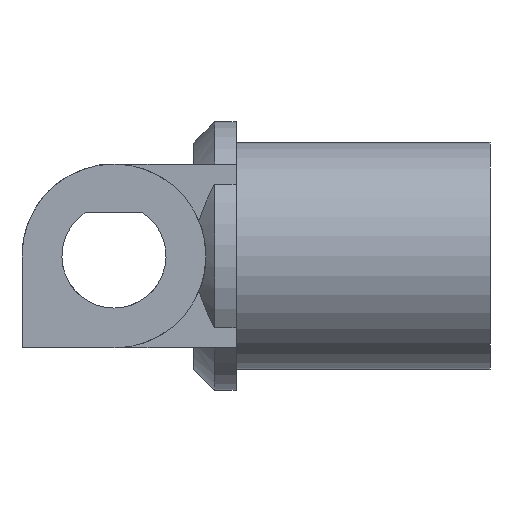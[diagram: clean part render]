
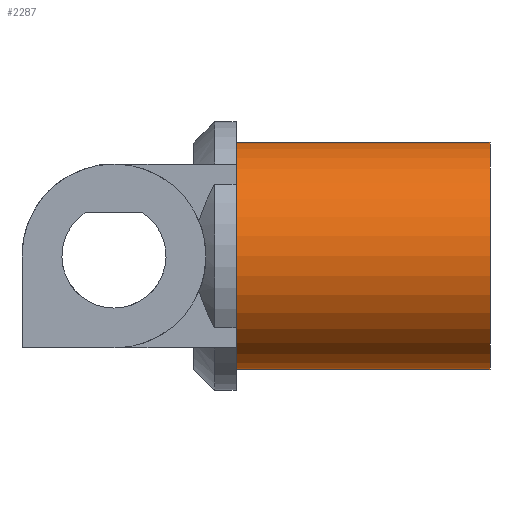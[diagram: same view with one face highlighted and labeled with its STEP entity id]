
A CAD part, front view. The second image highlights one B-rep face of the part: STEP entity #2287.
In plain terms, the highlighted cylindrical face has radius 7.9 mm (diameter 15.8 mm), a full revolution.
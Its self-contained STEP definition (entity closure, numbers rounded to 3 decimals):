
#183 = PLANE('',#184);
#184 = AXIS2_PLACEMENT_3D('',#185,#186,#187);
#185 = CARTESIAN_POINT('',(8.5,-7.9,-6.4));
#186 = DIRECTION('',(1.,0.,-0.));
#187 = DIRECTION('',(0.,0.,1.));
#859 = EDGE_CURVE('',#860,#860,#862,.T.);
#860 = VERTEX_POINT('',#861);
#861 = CARTESIAN_POINT('',(8.5,0.,-7.9));
#862 = SURFACE_CURVE('',#863,(#868,#875),.PCURVE_S1.);
#863 = CIRCLE('',#864,7.9);
#864 = AXIS2_PLACEMENT_3D('',#865,#866,#867);
#865 = CARTESIAN_POINT('',(8.5,0.,0.));
#866 = DIRECTION('',(1.,0.,0.));
#867 = DIRECTION('',(0.,0.,-1.));
#868 = PCURVE('',#183,#869);
#869 = DEFINITIONAL_REPRESENTATION('',(#870),#874);
#870 = CIRCLE('',#871,7.9);
#871 = AXIS2_PLACEMENT_2D('',#872,#873);
#872 = CARTESIAN_POINT('',(6.4,-7.9));
#873 = DIRECTION('',(-1.,0.));
#874 = ( GEOMETRIC_REPRESENTATION_CONTEXT(2) 
PARAMETRIC_REPRESENTATION_CONTEXT() REPRESENTATION_CONTEXT('2D SPACE',''
  ) );
#875 = PCURVE('',#876,#881);
#876 = CYLINDRICAL_SURFACE('',#877,7.9);
#877 = AXIS2_PLACEMENT_3D('',#878,#879,#880);
#878 = CARTESIAN_POINT('',(8.49,0.,0.));
#879 = DIRECTION('',(1.,0.,0.));
#880 = DIRECTION('',(0.,0.,-1.));
#881 = DEFINITIONAL_REPRESENTATION('',(#882),#886);
#882 = LINE('',#883,#884);
#883 = CARTESIAN_POINT('',(0.,0.01));
#884 = VECTOR('',#885,1.);
#885 = DIRECTION('',(1.,0.));
#886 = ( GEOMETRIC_REPRESENTATION_CONTEXT(2) 
PARAMETRIC_REPRESENTATION_CONTEXT() REPRESENTATION_CONTEXT('2D SPACE',''
  ) );
#2287 = ADVANCED_FACE('',(#2288),#876,.T.);
#2288 = FACE_BOUND('',#2289,.T.);
#2289 = EDGE_LOOP('',(#2290,#2313,#2340,#2341));
#2290 = ORIENTED_EDGE('',*,*,#2291,.T.);
#2291 = EDGE_CURVE('',#860,#2292,#2294,.T.);
#2292 = VERTEX_POINT('',#2293);
#2293 = CARTESIAN_POINT('',(26.17,0.,-7.9));
#2294 = SEAM_CURVE('',#2295,(#2299,#2306),.PCURVE_S1.);
#2295 = LINE('',#2296,#2297);
#2296 = CARTESIAN_POINT('',(8.49,0.,-7.9));
#2297 = VECTOR('',#2298,1.);
#2298 = DIRECTION('',(1.,0.,0.));
#2299 = PCURVE('',#876,#2300);
#2300 = DEFINITIONAL_REPRESENTATION('',(#2301),#2305);
#2301 = LINE('',#2302,#2303);
#2302 = CARTESIAN_POINT('',(6.283,-0.));
#2303 = VECTOR('',#2304,1.);
#2304 = DIRECTION('',(0.,1.));
#2305 = ( GEOMETRIC_REPRESENTATION_CONTEXT(2) 
PARAMETRIC_REPRESENTATION_CONTEXT() REPRESENTATION_CONTEXT('2D SPACE',''
  ) );
#2306 = PCURVE('',#876,#2307);
#2307 = DEFINITIONAL_REPRESENTATION('',(#2308),#2312);
#2308 = LINE('',#2309,#2310);
#2309 = CARTESIAN_POINT('',(0.,-0.));
#2310 = VECTOR('',#2311,1.);
#2311 = DIRECTION('',(0.,1.));
#2312 = ( GEOMETRIC_REPRESENTATION_CONTEXT(2) 
PARAMETRIC_REPRESENTATION_CONTEXT() REPRESENTATION_CONTEXT('2D SPACE',''
  ) );
#2313 = ORIENTED_EDGE('',*,*,#2314,.F.);
#2314 = EDGE_CURVE('',#2292,#2292,#2315,.T.);
#2315 = SURFACE_CURVE('',#2316,(#2321,#2328),.PCURVE_S1.);
#2316 = CIRCLE('',#2317,7.9);
#2317 = AXIS2_PLACEMENT_3D('',#2318,#2319,#2320);
#2318 = CARTESIAN_POINT('',(26.17,0.,0.));
#2319 = DIRECTION('',(1.,-0.,0.));
#2320 = DIRECTION('',(0.,0.,-1.));
#2321 = PCURVE('',#876,#2322);
#2322 = DEFINITIONAL_REPRESENTATION('',(#2323),#2327);
#2323 = LINE('',#2324,#2325);
#2324 = CARTESIAN_POINT('',(0.,17.68));
#2325 = VECTOR('',#2326,1.);
#2326 = DIRECTION('',(1.,0.));
#2327 = ( GEOMETRIC_REPRESENTATION_CONTEXT(2) 
PARAMETRIC_REPRESENTATION_CONTEXT() REPRESENTATION_CONTEXT('2D SPACE',''
  ) );
#2328 = PCURVE('',#2329,#2334);
#2329 = PLANE('',#2330);
#2330 = AXIS2_PLACEMENT_3D('',#2331,#2332,#2333);
#2331 = CARTESIAN_POINT('',(26.17,0.,0.));
#2332 = DIRECTION('',(1.,0.,0.));
#2333 = DIRECTION('',(0.,0.,-1.));
#2334 = DEFINITIONAL_REPRESENTATION('',(#2335),#2339);
#2335 = CIRCLE('',#2336,7.9);
#2336 = AXIS2_PLACEMENT_2D('',#2337,#2338);
#2337 = CARTESIAN_POINT('',(0.,0.));
#2338 = DIRECTION('',(1.,0.));
#2339 = ( GEOMETRIC_REPRESENTATION_CONTEXT(2) 
PARAMETRIC_REPRESENTATION_CONTEXT() REPRESENTATION_CONTEXT('2D SPACE',''
  ) );
#2340 = ORIENTED_EDGE('',*,*,#2291,.F.);
#2341 = ORIENTED_EDGE('',*,*,#859,.T.);
